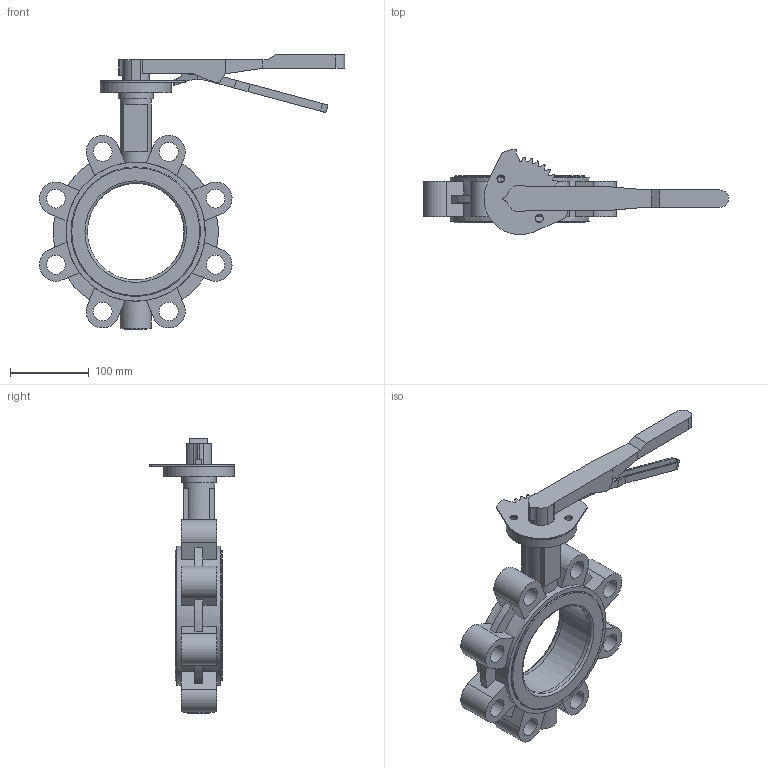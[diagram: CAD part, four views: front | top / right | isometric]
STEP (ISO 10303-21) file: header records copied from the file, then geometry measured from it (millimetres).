
FILE_DESCRIPTION (( 'STEP AP203' ), '1' );
FILE_NAME ('2502 LT型中线衬胶带销 手柄蝶阀 DN125 PN25 CD0309072.STEP', '2026-04-16T08:05:58', ( '' ), ( '' ), 'SwSTEP 2.0', 'SolidWorks 2018', '' );
FILE_SCHEMA (( 'CONFIG_CONTROL_DESIGN' ));
Length unit declared in the file: millimetre
Products named in the file (8): GALA-D125-01LC25-00; GALA-D125-04AZC-00; 新型玛钢手柄主手柄-DN100-DN125-立方孔11-9004; 新型玛钢手柄装配体(带盖)-DN100-DN125-立方孔14-9004; 2502 LT型中线衬胶带销 手柄蝶阀 DN125 PN25 CD0309072; 六角螺塞 M24X1.5; 新型玛钢手柄齿盘(不锈钢)-DN100-DN150; 新型玛钢手柄副手柄-DN100-DN125-9004
Assembly tree (7 placements, depth 3):
  2502 LT型中线衬胶带销 手柄蝶阀 DN125 PN25 CD0309072
    GALA-D125-01LC25-00
    GALA-D125-04AZC-00
    六角螺塞 M24X1.5
    新型玛钢手柄装配体(带盖)-DN100-DN125-立方孔14-9004
      新型玛钢手柄主手柄-DN100-DN125-立方孔11-9004
      新型玛钢手柄齿盘(不锈钢)-DN100-DN150
      新型玛钢手柄副手柄-DN100-DN125-9004
Bounding box: 388.5 x 108.6 x 349 mm (x, y, z)
Volume: 1540905 mm3; surface area: 328923 mm2
Topology: 6 solids, 6 shells, 292 faces, 794 edges, 519 vertices
Faces by surface type: plane 162, cylinder 114, cone 8, torus 8
Full cylindrical faces by diameter (mm): 10 x6, 22 x1, 24 x8, 27 x1, 29 x1, 30 x1, 40 x2, 44 x1, 90 x1, 123.001 x1, 131 x2, 165 x4, 177 x2
Entity records: 9952 total; most frequent: CARTESIAN_POINT 1738, DIRECTION 1581, ORIENTED_EDGE 1474, EDGE_CURVE 737, AXIS2_PLACEMENT_3D 567, VERTEX_POINT 510, VECTOR 447, LINE 447
